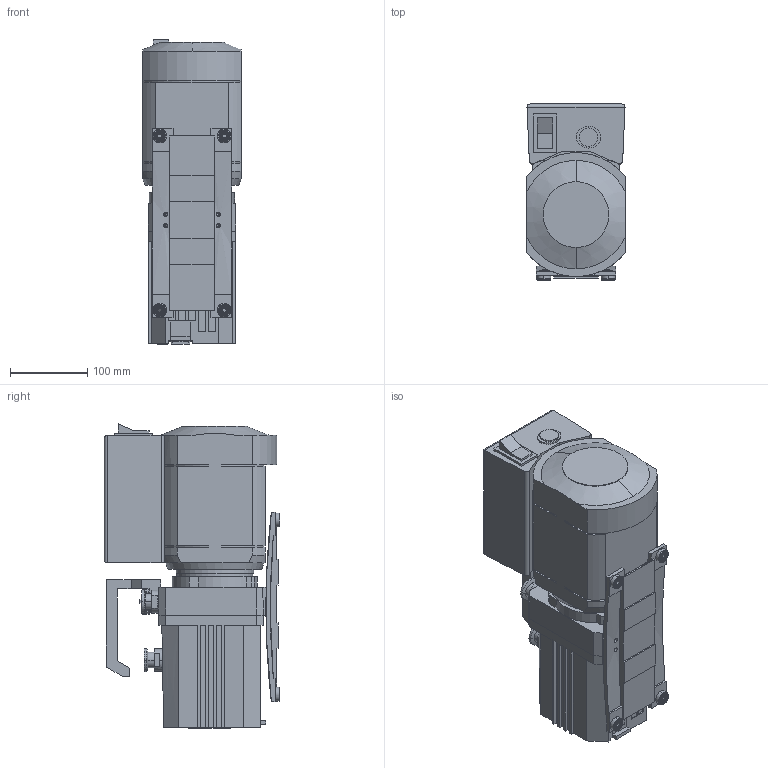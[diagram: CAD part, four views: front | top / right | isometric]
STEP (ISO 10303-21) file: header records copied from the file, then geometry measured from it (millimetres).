
FILE_DESCRIPTION((''),'2;1');
FILE_NAME('300598640_Y19_000_ASM','2016-03-09T',('56762'),('Copyright by Leybold GmbH'),'PRO/ENGINEER BY PARAMETRIC TECHNOLOGY CORPORATION, 2013320','PRO/ENGINEER BY PARAMETRIC TECHNOLOGY CORPORATION, 2013320','');
FILE_SCHEMA(('AUTOMOTIVE_DESIGN { 1 0 10303 214 1 1 1 1 }'));
Length unit declared in the file: millimetre
Products named in the file (15): 300598638_Y19_000; 853009050_PMD_000; 300598637_Y19_000_ASM; 300598677_Y19_000; 300598669_Y19_000; 300598646_Y19_000; 300598670_Y19_000_ASM; 300598642_Y19_000_ASM; 300598652_Y19_000; 300600374_Y19_000; 300598644_Y19_000; 300598628_Y19_000; 300598648_Y19_000; 300598633_Y19_000; 300598640_Y19_000_ASM
Assembly tree (19 placements, depth 4):
  300598640_Y19_000_ASM
    300598642_Y19_000_ASM
      300598637_Y19_000_ASM
        300598638_Y19_000
        853009050_PMD_000  x4
      300598677_Y19_000
      300598670_Y19_000_ASM
        300598669_Y19_000
        300598646_Y19_000
    300598652_Y19_000
    300600374_Y19_000
    300598644_Y19_000
    300598628_Y19_000  x2
    300598648_Y19_000  x2
    300598633_Y19_000
Bounding box: 127 x 226.99 x 393.3 mm (x, y, z)
Volume: 7271389.1 mm3; surface area: 505990.8 mm2
Topology: 16 solids, 16 shells, 771 faces, 1899 edges, 1208 vertices
Faces by surface type: plane 386, cylinder 241, cone 74, torus 66, bspline 2, extrusion 2
Entity records: 23148 total; most frequent: CARTESIAN_POINT 4851, DIRECTION 3405, ORIENTED_EDGE 3258, EDGE_CURVE 1629, AXIS2_PLACEMENT_3D 1151, VECTOR 1103, LINE 1101, VERTEX_POINT 1060
